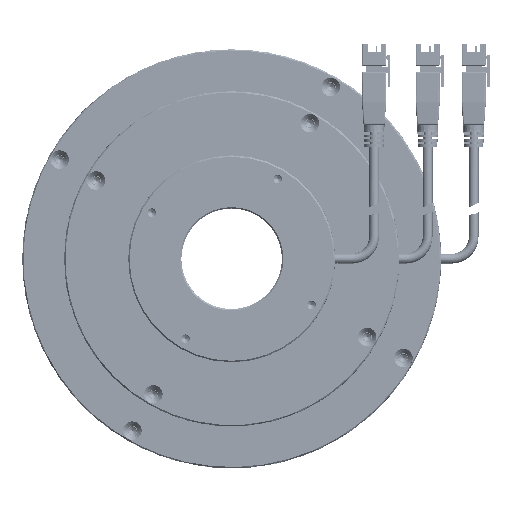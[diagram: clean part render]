
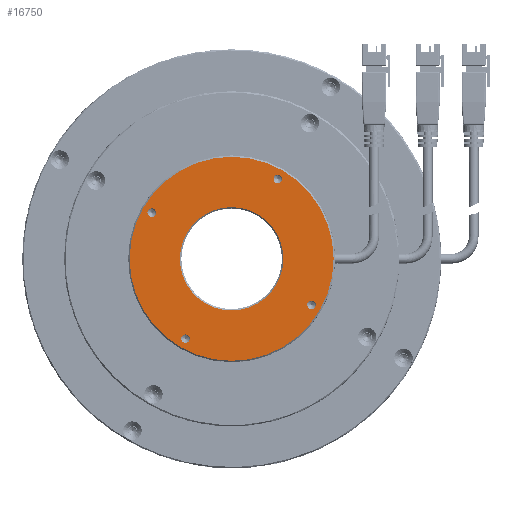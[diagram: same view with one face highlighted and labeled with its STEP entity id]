
A CAD part, front view. The second image highlights one B-rep face of the part: STEP entity #16750.
In plain terms, the highlighted planar face has unit normal (0, -1, 0).
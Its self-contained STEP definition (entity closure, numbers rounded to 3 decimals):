
#374 = AXIS2_PLACEMENT_3D ( 'NONE', #24775, #8554, #27506 ) ;
#705 = DIRECTION ( 'NONE',  ( 0., 0., -1. ) ) ;
#1125 = CARTESIAN_POINT ( 'NONE',  ( 16.5, 0., 30.104 ) ) ;
#1876 = FACE_BOUND ( 'NONE', #21438, .T. ) ;
#2428 = AXIS2_PLACEMENT_3D ( 'NONE', #12768, #31720, #15501 ) ;
#2655 = DIRECTION ( 'NONE',  ( 0., 1., 0. ) ) ;
#2834 = EDGE_LOOP ( 'NONE', ( #27483, #26910 ) ) ;
#3731 = DIRECTION ( 'NONE',  ( 0., -1., 0. ) ) ;
#3902 = EDGE_CURVE ( 'NONE', #27164, #15802, #15658, .T. ) ;
#4364 = CARTESIAN_POINT ( 'NONE',  ( 0., 0., 0. ) ) ;
#4940 = CIRCLE ( 'NONE', #29447, 18.5 ) ;
#5115 = CARTESIAN_POINT ( 'NONE',  ( 28.579, 0., -16.5 ) ) ;
#5524 = CARTESIAN_POINT ( 'NONE',  ( -16.5, 0., -28.579 ) ) ;
#5552 = EDGE_CURVE ( 'NONE', #33897, #32944, #22361, .T. ) ;
#6364 = CARTESIAN_POINT ( 'NONE',  ( 16.5, 0., 28.579 ) ) ;
#6754 = CARTESIAN_POINT ( 'NONE',  ( 0., 0., -36.5 ) ) ;
#6770 = VERTEX_POINT ( 'NONE', #34133 ) ;
#6867 = EDGE_CURVE ( 'NONE', #19279, #16167, #8765, .T. ) ;
#6877 = CIRCLE ( 'NONE', #2428, 1.525 ) ;
#6991 = AXIS2_PLACEMENT_3D ( 'NONE', #6364, #25313, #9104 ) ;
#7128 = DIRECTION ( 'NONE',  ( 0., 0., -1. ) ) ;
#7230 = ORIENTED_EDGE ( 'NONE', *, *, #31157, .F. ) ;
#7270 = DIRECTION ( 'NONE',  ( 0., -1., 0. ) ) ;
#7538 = AXIS2_PLACEMENT_3D ( 'NONE', #5115, #24073, #7868 ) ;
#7689 = EDGE_LOOP ( 'NONE', ( #27198, #9135 ) ) ;
#7868 = DIRECTION ( 'NONE',  ( 0., 0., -1. ) ) ;
#8046 = ORIENTED_EDGE ( 'NONE', *, *, #6867, .T. ) ;
#8161 = VERTEX_POINT ( 'NONE', #24059 ) ;
#8206 = CARTESIAN_POINT ( 'NONE',  ( 0., 0., -18.5 ) ) ;
#8209 = CARTESIAN_POINT ( 'NONE',  ( -16.5, 0., -30.104 ) ) ;
#8283 = DIRECTION ( 'NONE',  ( 0., 0., -1. ) ) ;
#8554 = DIRECTION ( 'NONE',  ( 0., -1., 0. ) ) ;
#8765 = CIRCLE ( 'NONE', #28888, 18.5 ) ;
#8790 = CARTESIAN_POINT ( 'NONE',  ( 0., 0., 18.5 ) ) ;
#8816 = AXIS2_PLACEMENT_3D ( 'NONE', #13397, #32353, #16147 ) ;
#8879 = EDGE_CURVE ( 'NONE', #17245, #10265, #30245, .T. ) ;
#8885 = CIRCLE ( 'NONE', #17945, 36.5 ) ;
#9090 = FACE_BOUND ( 'NONE', #33525, .T. ) ;
#9104 = DIRECTION ( 'NONE',  ( 0., 0., -1. ) ) ;
#9135 = ORIENTED_EDGE ( 'NONE', *, *, #10102, .F. ) ;
#9513 = CARTESIAN_POINT ( 'NONE',  ( 28.579, 0., -18.025 ) ) ;
#9806 = ORIENTED_EDGE ( 'NONE', *, *, #26540, .T. ) ;
#10102 = EDGE_CURVE ( 'NONE', #15802, #27164, #6877, .T. ) ;
#10265 = VERTEX_POINT ( 'NONE', #13343 ) ;
#11738 = AXIS2_PLACEMENT_3D ( 'NONE', #33146, #16920, #705 ) ;
#12310 = CIRCLE ( 'NONE', #8816, 1.525 ) ;
#12768 = CARTESIAN_POINT ( 'NONE',  ( -28.579, 0., 16.5 ) ) ;
#13009 = ORIENTED_EDGE ( 'NONE', *, *, #20439, .T. ) ;
#13343 = CARTESIAN_POINT ( 'NONE',  ( 16.5, 0., 27.054 ) ) ;
#13397 = CARTESIAN_POINT ( 'NONE',  ( 16.5, 0., 28.579 ) ) ;
#15197 = EDGE_CURVE ( 'NONE', #16167, #19279, #4940, .T. ) ;
#15501 = DIRECTION ( 'NONE',  ( 0., 0., -1. ) ) ;
#15513 = DIRECTION ( 'NONE',  ( 0., -1., 0. ) ) ;
#15562 = EDGE_LOOP ( 'NONE', ( #9806, #13009 ) ) ;
#15636 = AXIS2_PLACEMENT_3D ( 'NONE', #5524, #24490, #8283 ) ;
#15658 = CIRCLE ( 'NONE', #30352, 1.525 ) ;
#15802 = VERTEX_POINT ( 'NONE', #28850 ) ;
#16020 = CARTESIAN_POINT ( 'NONE',  ( 0., 0., 0. ) ) ;
#16147 = DIRECTION ( 'NONE',  ( 0., 0., -1. ) ) ;
#16167 = VERTEX_POINT ( 'NONE', #8790 ) ;
#16750 = ADVANCED_FACE ( 'NONE', ( #17124, #9090, #23496, #29842, #1876, #22657 ), #20030, .T. ) ;
#16920 = DIRECTION ( 'NONE',  ( 0., -1., 0. ) ) ;
#17124 = FACE_OUTER_BOUND ( 'NONE', #15562, .T. ) ;
#17245 = VERTEX_POINT ( 'NONE', #1125 ) ;
#17945 = AXIS2_PLACEMENT_3D ( 'NONE', #4364, #23336, #7128 ) ;
#18760 = DIRECTION ( 'NONE',  ( 0., 0., -1. ) ) ;
#18905 = CARTESIAN_POINT ( 'NONE',  ( 0., 0., 0. ) ) ;
#19279 = VERTEX_POINT ( 'NONE', #8206 ) ;
#20030 = PLANE ( 'NONE',  #25394 ) ;
#20117 = VERTEX_POINT ( 'NONE', #8209 ) ;
#20439 = EDGE_CURVE ( 'NONE', #32957, #8161, #8885, .T. ) ;
#20999 = EDGE_CURVE ( 'NONE', #32944, #33897, #24951, .T. ) ;
#21438 = EDGE_LOOP ( 'NONE', ( #33656, #34128 ) ) ;
#21652 = DIRECTION ( 'NONE',  ( 0., 0., -1. ) ) ;
#22093 = DIRECTION ( 'NONE',  ( 0., 1., 0. ) ) ;
#22361 = CIRCLE ( 'NONE', #32211, 1.525 ) ;
#22657 = FACE_BOUND ( 'NONE', #34115, .T. ) ;
#22736 = DIRECTION ( 'NONE',  ( 0., 0., -1. ) ) ;
#23245 = CIRCLE ( 'NONE', #374, 36.5 ) ;
#23296 = CARTESIAN_POINT ( 'NONE',  ( -28.579, 0., 14.975 ) ) ;
#23336 = DIRECTION ( 'NONE',  ( 0., -1., 0. ) ) ;
#23483 = CARTESIAN_POINT ( 'NONE',  ( -28.579, 0., 16.5 ) ) ;
#23496 = FACE_BOUND ( 'NONE', #7689, .T. ) ;
#24059 = CARTESIAN_POINT ( 'NONE',  ( 0., 0., 36.5 ) ) ;
#24073 = DIRECTION ( 'NONE',  ( 0., -1., 0. ) ) ;
#24125 = EDGE_CURVE ( 'NONE', #10265, #17245, #12310, .T. ) ;
#24134 = ORIENTED_EDGE ( 'NONE', *, *, #15197, .T. ) ;
#24490 = DIRECTION ( 'NONE',  ( 0., -1., 0. ) ) ;
#24775 = CARTESIAN_POINT ( 'NONE',  ( 0., 0., 0. ) ) ;
#24951 = CIRCLE ( 'NONE', #7538, 1.525 ) ;
#25050 = ORIENTED_EDGE ( 'NONE', *, *, #28755, .F. ) ;
#25313 = DIRECTION ( 'NONE',  ( 0., -1., 0. ) ) ;
#25316 = CARTESIAN_POINT ( 'NONE',  ( 18., 0., 0. ) ) ;
#25394 = AXIS2_PLACEMENT_3D ( 'NONE', #25316, #3731, #22736 ) ;
#26202 = DIRECTION ( 'NONE',  ( 0., 0., -1. ) ) ;
#26540 = EDGE_CURVE ( 'NONE', #8161, #32957, #23245, .T. ) ;
#26653 = CIRCLE ( 'NONE', #11738, 1.525 ) ;
#26910 = ORIENTED_EDGE ( 'NONE', *, *, #8879, .F. ) ;
#27164 = VERTEX_POINT ( 'NONE', #23296 ) ;
#27198 = ORIENTED_EDGE ( 'NONE', *, *, #3902, .F. ) ;
#27483 = ORIENTED_EDGE ( 'NONE', *, *, #24125, .F. ) ;
#27506 = DIRECTION ( 'NONE',  ( 0., 0., -1. ) ) ;
#28755 = EDGE_CURVE ( 'NONE', #6770, #20117, #31822, .T. ) ;
#28850 = CARTESIAN_POINT ( 'NONE',  ( -28.579, 0., 18.025 ) ) ;
#28888 = AXIS2_PLACEMENT_3D ( 'NONE', #16020, #22093, #18760 ) ;
#29447 = AXIS2_PLACEMENT_3D ( 'NONE', #18905, #2655, #21652 ) ;
#29842 = FACE_BOUND ( 'NONE', #2834, .T. ) ;
#30245 = CIRCLE ( 'NONE', #6991, 1.525 ) ;
#30352 = AXIS2_PLACEMENT_3D ( 'NONE', #23483, #7270, #26202 ) ;
#31143 = CARTESIAN_POINT ( 'NONE',  ( 28.579, 0., -14.975 ) ) ;
#31157 = EDGE_CURVE ( 'NONE', #20117, #6770, #26653, .T. ) ;
#31720 = DIRECTION ( 'NONE',  ( 0., -1., 0. ) ) ;
#31735 = CARTESIAN_POINT ( 'NONE',  ( 28.579, 0., -16.5 ) ) ;
#31822 = CIRCLE ( 'NONE', #15636, 1.525 ) ;
#32211 = AXIS2_PLACEMENT_3D ( 'NONE', #31735, #15513, #34455 ) ;
#32353 = DIRECTION ( 'NONE',  ( 0., -1., 0. ) ) ;
#32944 = VERTEX_POINT ( 'NONE', #31143 ) ;
#32957 = VERTEX_POINT ( 'NONE', #6754 ) ;
#33146 = CARTESIAN_POINT ( 'NONE',  ( -16.5, 0., -28.579 ) ) ;
#33525 = EDGE_LOOP ( 'NONE', ( #8046, #24134 ) ) ;
#33656 = ORIENTED_EDGE ( 'NONE', *, *, #5552, .F. ) ;
#33897 = VERTEX_POINT ( 'NONE', #9513 ) ;
#34115 = EDGE_LOOP ( 'NONE', ( #7230, #25050 ) ) ;
#34128 = ORIENTED_EDGE ( 'NONE', *, *, #20999, .F. ) ;
#34133 = CARTESIAN_POINT ( 'NONE',  ( -16.5, 0., -27.054 ) ) ;
#34455 = DIRECTION ( 'NONE',  ( 0., 0., -1. ) ) ;
